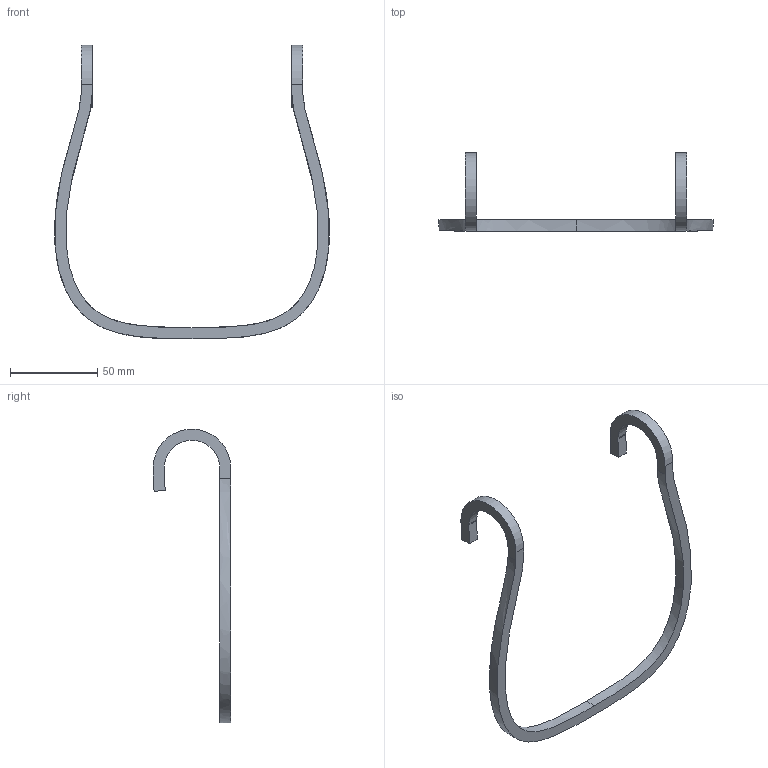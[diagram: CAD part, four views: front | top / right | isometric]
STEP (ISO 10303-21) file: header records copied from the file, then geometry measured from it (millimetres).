
FILE_DESCRIPTION(('STEP AP214'),'1');
FILE_NAME('Design2.stp','2018-04-09T22:44:11',(' '),(' '),'Spatial InterOp 3D',' ',' ');
FILE_SCHEMA(('AUTOMOTIVE_DESIGN { 1 0 10303 214 1 1 1 1 }'));
Length unit declared in the file: metre
Products named in the file (1): Solid
Bounding box: 157.11 x 44.45 x 168.08 mm (x, y, z)
Volume: 21797.5 mm3; surface area: 13864 mm2
Topology: 1 solids, 1 shells, 24 faces, 66 edges, 44 vertices
Faces by surface type: plane 12, cylinder 8, extrusion 2, bspline 2
Entity records: 1660 total; most frequent: CARTESIAN_POINT 840, ORIENTED_EDGE 132, DIRECTION 115, EDGE_CURVE 66, VERTEX_POINT 44, VECTOR 41, LINE 39, AXIS2_PLACEMENT_3D 37
